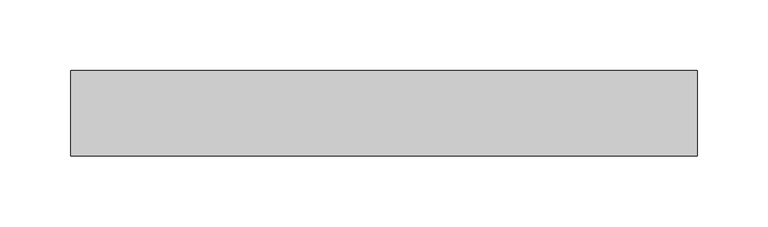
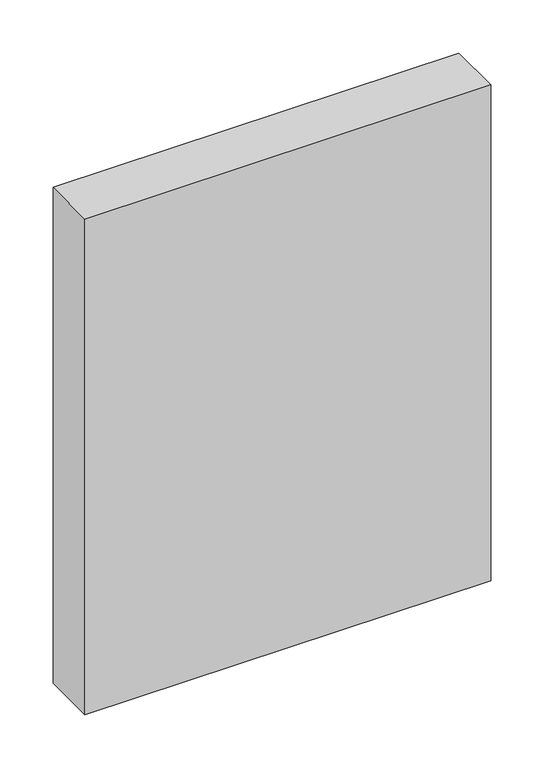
"""IFC4 building model written with IfcOpenShell, lengths in millimetres: plate geometry, Системная панель : Алюкобонд серый."""

from ifc_helpers import new_model, si_unit, origin, origin_with_axes, place, context, project, spatial, polyline, outline, extrude, source, transform, mapped, element, save


def plate_b87e3bca(model_context):
    return source(origin(), model_context, "Body", "SweptSolid", [
        extrude(outline(polyline([(220.6048915, -10.5), (-220.6048915, -10.5), (-220.6048915, 49.5), (220.6048915, 49.5), (220.6048915, -10.5)])), origin_with_axes(), (0.0, 0.0, 1.0), 570.0),
    ])


if __name__ == "__main__":
    model = new_model("IFC4")
    model_context = context("Model", 3, world=origin())
    ifc_project = project(units=[si_unit("LENGTHUNIT", "METRE", prefix="MILLI")], contexts=[model_context])
    site = spatial("IfcSite", under=ifc_project)
    building = spatial("IfcBuilding", under=site)
    placement = place(None, origin())
    plate_shape = plate_b87e3bca(model_context)
    element("IfcPlate", 1, ObjectType="Системная панель : Алюкобонд серый", at=placement, inside=building, context=model_context, shape_type="MappedRepresentation", body=[
        mapped(plate_shape, transform((0.0, 0.0, 0.0), x_axis=(1.0, 0.0, 0.0), y_axis=(0.0, 1.0, 0.0), z_axis=(0.0, 0.0, 1.0))),
    ])
    save(model, "model.ifc")
